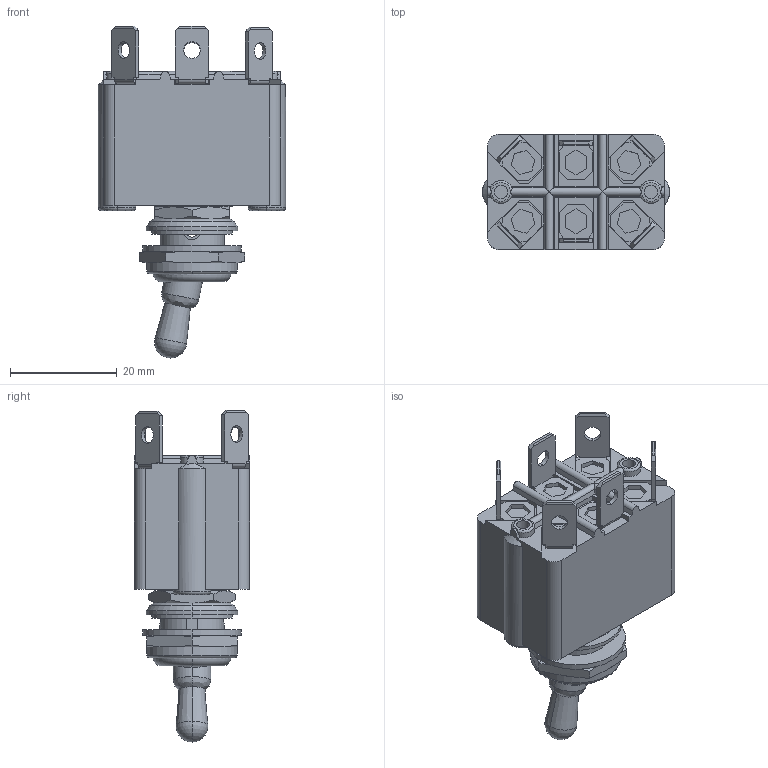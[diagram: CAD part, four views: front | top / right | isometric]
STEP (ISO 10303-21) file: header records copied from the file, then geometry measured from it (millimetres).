
FILE_DESCRIPTION((''),'2;1');
FILE_NAME('3644NF_2G_SW0001','2009-10-21T',('jlgachon'),(''),'PRO/ENGINEER BY PARAMETRIC TECHNOLOGY CORPORATION, 2008400','PRO/ENGINEER BY PARAMETRIC TECHNOLOGY CORPORATION, 2008400','');
FILE_SCHEMA(('CONFIG_CONTROL_DESIGN'));
Length unit declared in the file: millimetre
Products named in the file (1): 3644NF_2G_SW0001
Bounding box: 35 x 21.5 x 62.06 mm (x, y, z)
Volume: 18902.9 mm3; surface area: 9094.1 mm2
Topology: 3 solids, 3 shells, 565 faces, 1461 edges, 919 vertices
Faces by surface type: plane 371, cylinder 103, cone 46, torus 20, bspline 19, sphere 6
Entity records: 18976 total; most frequent: CARTESIAN_POINT 5347, ORIENTED_EDGE 2918, DIRECTION 2670, EDGE_CURVE 1459, VECTOR 952, LINE 952, VERTEX_POINT 919, AXIS2_PLACEMENT_3D 859
